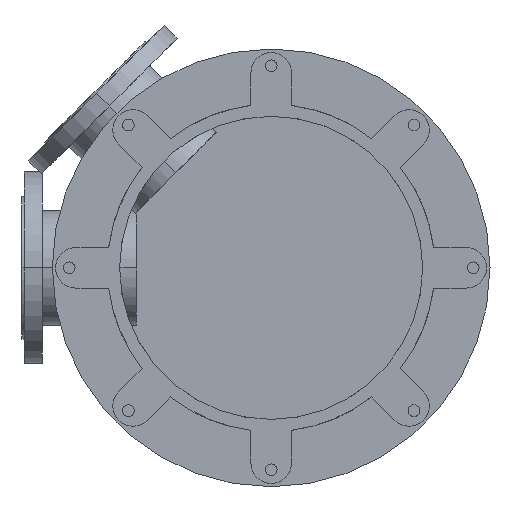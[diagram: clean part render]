
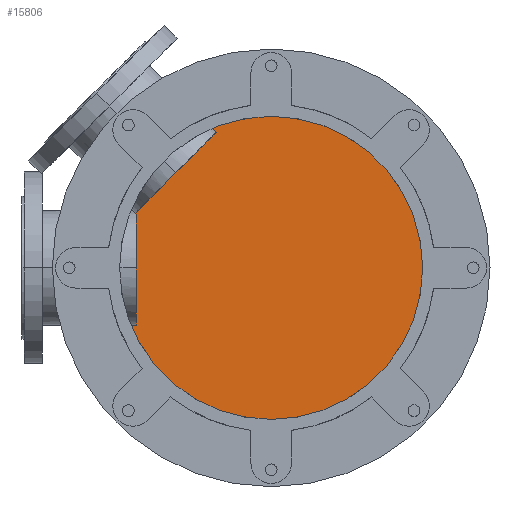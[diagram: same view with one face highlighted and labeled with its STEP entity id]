
A CAD part, front view. The second image highlights one B-rep face of the part: STEP entity #15806.
In plain terms, the highlighted planar face has unit normal (0, -1, 0).
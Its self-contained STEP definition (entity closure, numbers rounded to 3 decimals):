
#4410=CARTESIAN_POINT('',(0.,1004.,0.));
#4411=DIRECTION('',(0.,-1.,0.));
#4412=DIRECTION('',(0.,0.,1.));
#4413=AXIS2_PLACEMENT_3D('',#4410,#4411,#4412);
#4582=CARTESIAN_POINT('',(0.,1004.,0.));
#4583=DIRECTION('',(0.,-1.,0.));
#4584=DIRECTION('',(0.,0.,-1.));
#4585=AXIS2_PLACEMENT_3D('',#4582,#4583,#4584);
#9734=CARTESIAN_POINT('',(0.,1004.,240.));
#9735=CARTESIAN_POINT('',(0.,1004.,-240.));
#9736=VERTEX_POINT('',#9734);
#9737=VERTEX_POINT('',#9735);
#15796=CARTESIAN_POINT('',(0.,1004.,0.));
#15797=DIRECTION('',(0.,1.,0.));
#15798=DIRECTION('',(0.,0.,-1.));
#15799=AXIS2_PLACEMENT_3D('',#15796,#15797,#15798);
#15800=PLANE('',#15799);
#15801=ORIENTED_EDGE('',*,*,#15774,.F.);
#15803=ORIENTED_EDGE('',*,*,#15802,.F.);
#15804=EDGE_LOOP('',(#15801,#15803));
#15805=FACE_OUTER_BOUND('',#15804,.F.);
#15806=ADVANCED_FACE('',(#15805),#15800,.F.);
#4414=CIRCLE('',#4413,240.);
#4586=CIRCLE('',#4585,240.);
#15774=EDGE_CURVE('',#9736,#9737,#4414,.T.);
#15802=EDGE_CURVE('',#9737,#9736,#4586,.T.);
